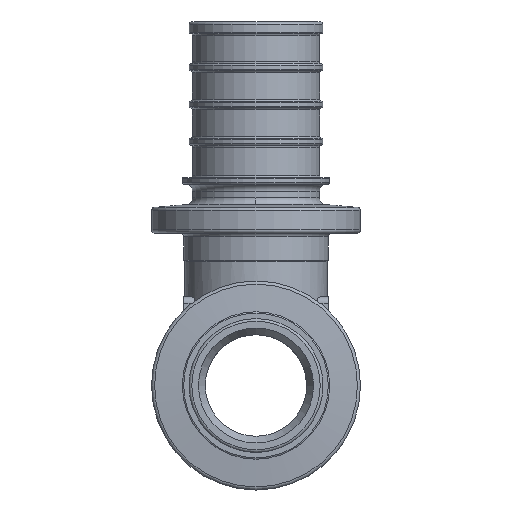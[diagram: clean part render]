
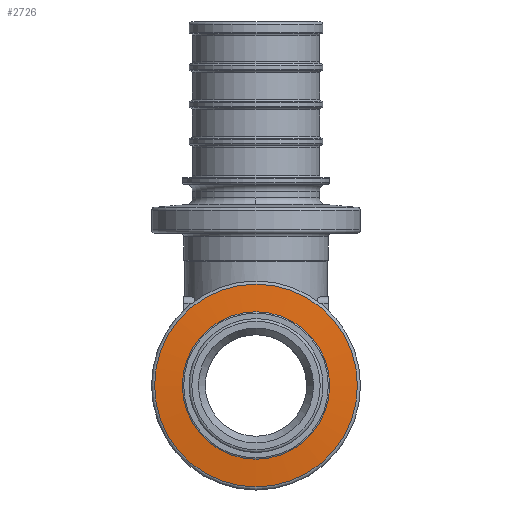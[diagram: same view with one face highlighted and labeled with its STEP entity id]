
A CAD part, front view. The second image highlights one B-rep face of the part: STEP entity #2726.
In plain terms, the highlighted conical face has half-angle 85 degrees and reference radius 12.653 mm.
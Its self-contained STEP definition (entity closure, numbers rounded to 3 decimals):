
#2726=ADVANCED_FACE('',(#5995,#5997),#5999,.T.);
#5995=FACE_OUTER_BOUND('',#5996,.T.);
#5996=EDGE_LOOP('',(#8994));
#5997=FACE_BOUND('',#5998,.T.);
#5998=EDGE_LOOP('',(#8995,#8996));
#5999=CONICAL_SURFACE('',#6000,12.653,1.484);
#6000=AXIS2_PLACEMENT_3D('',#6001,#6002,#6003);
#6001=CARTESIAN_POINT('',(0.,-26.545,0.));
#6002=DIRECTION('',(0.,1.,0.));
#6003=DIRECTION('',(0.,0.,-1.));
#8994=ORIENTED_EDGE('',*,*,#10040,.T.);
#8995=ORIENTED_EDGE('',*,*,#10045,.T.);
#8996=ORIENTED_EDGE('',*,*,#10046,.T.);
#10040=EDGE_CURVE('',#11512,#11512,#11513,.F.);
#10045=EDGE_CURVE('',#11522,#11523,#11524,.T.);
#10046=EDGE_CURVE('',#11523,#11522,#11525,.T.);
#11512=VERTEX_POINT('',#15295);
#11513=CIRCLE('',#15296,14.994);
#11522=VERTEX_POINT('',#15320);
#11523=VERTEX_POINT('',#15321);
#11524=CIRCLE('',#15322,10.313);
#11525=CIRCLE('',#15326,10.313);
#15295=CARTESIAN_POINT('',(0.,-26.34,-14.994));
#15296=AXIS2_PLACEMENT_3D('',#15297,#15298,#15299);
#15297=CARTESIAN_POINT('',(0.,-26.34,0.));
#15298=DIRECTION('',(0.,1.,0.));
#15299=DIRECTION('',(0.,0.,-1.));
#15320=CARTESIAN_POINT('',(0.,-26.749,-10.313));
#15321=CARTESIAN_POINT('',(-10.313,-26.749,0.));
#15322=AXIS2_PLACEMENT_3D('',#15323,#15324,#15325);
#15323=CARTESIAN_POINT('',(0.,-26.749,0.));
#15324=DIRECTION('',(0.,1.,0.));
#15325=DIRECTION('',(0.,0.,-1.));
#15326=AXIS2_PLACEMENT_3D('',#15327,#15328,#15329);
#15327=CARTESIAN_POINT('',(0.,-26.749,0.));
#15328=DIRECTION('',(0.,1.,0.));
#15329=DIRECTION('',(-1.,0.,0.));
